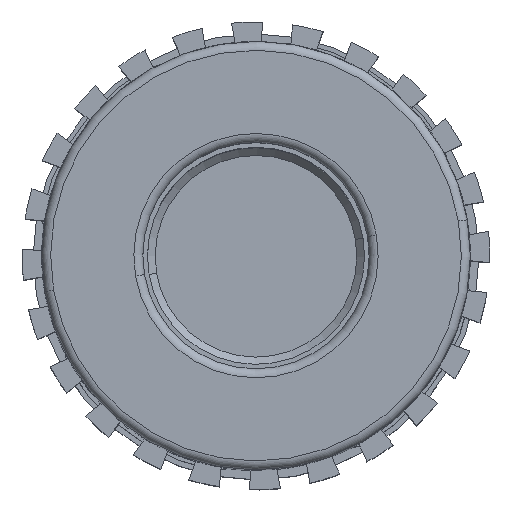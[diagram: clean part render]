
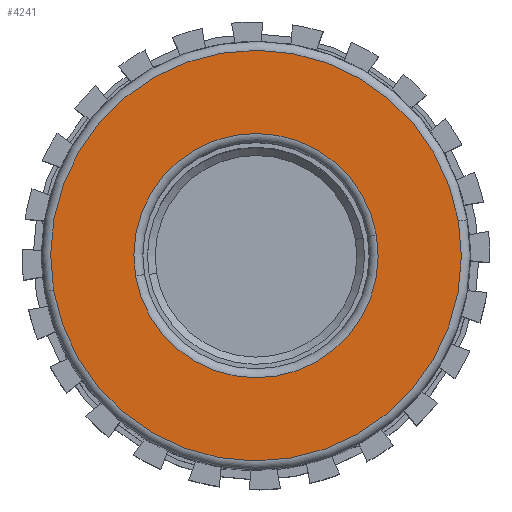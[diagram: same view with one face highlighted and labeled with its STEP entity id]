
A CAD part, top view. The second image highlights one B-rep face of the part: STEP entity #4241.
In plain terms, the highlighted planar face has unit normal (0, 0, 1) as drawn and (-1, 0, 0) by its records, which use the part's own axes.
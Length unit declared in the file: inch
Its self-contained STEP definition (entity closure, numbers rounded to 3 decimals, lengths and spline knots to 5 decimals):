
#166 = EDGE_CURVE ( 'NONE', #1198, #1196, #422, .T. ) ;
#265 = EDGE_CURVE ( 'NONE', #1196, #1198, #396, .T. ) ;
#266 = EDGE_CURVE ( 'NONE', #1187, #1204, #5330, .T. ) ;
#306 = EDGE_CURVE ( 'NONE', #1204, #1187, #2301, .T. ) ;
#396 = CIRCLE ( 'NONE', #1823, 0.67238 ) ;
#422 = CIRCLE ( 'NONE', #1760, 0.67238 ) ;
#1187 = VERTEX_POINT ( 'NONE', #3057 ) ;
#1196 = VERTEX_POINT ( 'NONE', #3074 ) ;
#1198 = VERTEX_POINT ( 'NONE', #3078 ) ;
#1204 = VERTEX_POINT ( 'NONE', #3089 ) ;
#1396 = EDGE_LOOP ( 'NONE', ( #3037, #3176 ) ) ;
#1469 = EDGE_LOOP ( 'NONE', ( #2964, #2977 ) ) ;
#1760 = AXIS2_PLACEMENT_3D ( 'NONE', #5253, #5254, #5255 ) ;
#1823 = AXIS2_PLACEMENT_3D ( 'NONE', #4639, #4640, #4641 ) ;
#1824 = AXIS2_PLACEMENT_3D ( 'NONE', #4642, #4643, #4644 ) ;
#1844 = AXIS2_PLACEMENT_3D ( 'NONE', #4739, #4740, #4741 ) ;
#2078 = AXIS2_PLACEMENT_3D ( 'NONE', #3596, #3593, #3600 ) ;
#2301 = CIRCLE ( 'NONE', #1844, 1.13025 ) ;
#2717 = FACE_BOUND ( 'NONE', #1396, .T. ) ;
#2721 = FACE_OUTER_BOUND ( 'NONE', #1469, .T. ) ;
#2964 = ORIENTED_EDGE ( 'NONE', *, *, #266, .T. ) ;
#2977 = ORIENTED_EDGE ( 'NONE', *, *, #306, .T. ) ;
#3037 = ORIENTED_EDGE ( 'NONE', *, *, #166, .T. ) ;
#3057 = CARTESIAN_POINT ( 'NONE',  ( -4.3277, 0., -1.13025 ) ) ;
#3074 = CARTESIAN_POINT ( 'NONE',  ( -4.3277, 0., 0.67238 ) ) ;
#3078 = CARTESIAN_POINT ( 'NONE',  ( -4.3277, 0., -0.67237 ) ) ;
#3089 = CARTESIAN_POINT ( 'NONE',  ( -4.3277, 0., 1.13025 ) ) ;
#3176 = ORIENTED_EDGE ( 'NONE', *, *, #265, .T. ) ;
#3593 = DIRECTION ( 'NONE',  ( 1., 0., 0. ) ) ;
#3596 = CARTESIAN_POINT ( 'NONE',  ( -4.3277, 0., 0. ) ) ;
#3598 = PLANE ( 'NONE',  #2078 ) ;
#3600 = DIRECTION ( 'NONE',  ( 0., 0., -1. ) ) ;
#4241 = ADVANCED_FACE ( 'NONE', ( #2717, #2721 ), #3598, .F. ) ;
#4639 = CARTESIAN_POINT ( 'NONE',  ( -4.3277, 0., 0. ) ) ;
#4640 = DIRECTION ( 'NONE',  ( 1., 0., 0. ) ) ;
#4641 = DIRECTION ( 'NONE',  ( 0., 0., -1. ) ) ;
#4642 = CARTESIAN_POINT ( 'NONE',  ( -4.3277, 0., 0. ) ) ;
#4643 = DIRECTION ( 'NONE',  ( -1., 0., 0. ) ) ;
#4644 = DIRECTION ( 'NONE',  ( 0., 0., -1. ) ) ;
#4739 = CARTESIAN_POINT ( 'NONE',  ( -4.3277, 0., 0. ) ) ;
#4740 = DIRECTION ( 'NONE',  ( -1., 0., 0. ) ) ;
#4741 = DIRECTION ( 'NONE',  ( 0., 0., -1. ) ) ;
#5253 = CARTESIAN_POINT ( 'NONE',  ( -4.3277, 0., 0. ) ) ;
#5254 = DIRECTION ( 'NONE',  ( 1., 0., 0. ) ) ;
#5255 = DIRECTION ( 'NONE',  ( 0., 0., -1. ) ) ;
#5330 = CIRCLE ( 'NONE', #1824, 1.13025 ) ;
